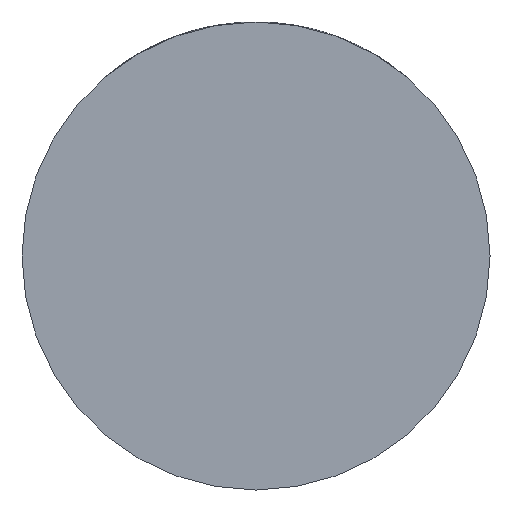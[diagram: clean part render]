
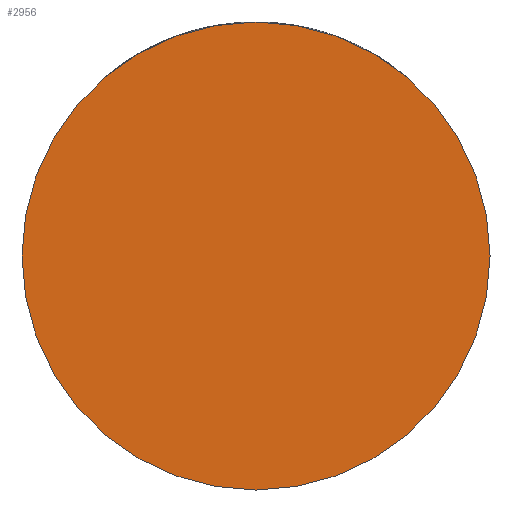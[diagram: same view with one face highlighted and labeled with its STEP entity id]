
A CAD part, front view. The second image highlights one B-rep face of the part: STEP entity #2956.
In plain terms, the highlighted planar face has unit normal (0, -1, 0).
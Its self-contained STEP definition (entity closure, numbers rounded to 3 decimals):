
#218 = CIRCLE ( 'NONE', #1531, 39. ) ;
#525 = DIRECTION ( 'NONE',  ( 1., 0., 0. ) ) ;
#603 = DIRECTION ( 'NONE',  ( 1., 0., 0. ) ) ;
#635 = CARTESIAN_POINT ( 'NONE',  ( -39., -36., 0. ) ) ;
#712 = AXIS2_PLACEMENT_3D ( 'NONE', #3617, #1499, #2528 ) ;
#943 = DIRECTION ( 'NONE',  ( 0., -1., 0. ) ) ;
#955 = VERTEX_POINT ( 'NONE', #635 ) ;
#1223 = CARTESIAN_POINT ( 'NONE',  ( 0., -36., 0. ) ) ;
#1431 = CARTESIAN_POINT ( 'NONE',  ( 39., -36., 0. ) ) ;
#1499 = DIRECTION ( 'NONE',  ( 0., -1., 0. ) ) ;
#1531 = AXIS2_PLACEMENT_3D ( 'NONE', #2727, #943, #603 ) ;
#2108 = EDGE_CURVE ( 'NONE', #955, #3838, #218, .T. ) ;
#2159 = PLANE ( 'NONE',  #712 ) ;
#2481 = FACE_OUTER_BOUND ( 'NONE', #4297, .T. ) ;
#2528 = DIRECTION ( 'NONE',  ( 1., 0., 0. ) ) ;
#2727 = CARTESIAN_POINT ( 'NONE',  ( 0., -36., 0. ) ) ;
#2824 = ORIENTED_EDGE ( 'NONE', *, *, #3432, .T. ) ;
#2956 = ADVANCED_FACE ( 'NONE', ( #2481 ), #2159, .T. ) ;
#3432 = EDGE_CURVE ( 'NONE', #3838, #955, #4412, .T. ) ;
#3587 = ORIENTED_EDGE ( 'NONE', *, *, #2108, .T. ) ;
#3617 = CARTESIAN_POINT ( 'NONE',  ( 0., -36., 0. ) ) ;
#3838 = VERTEX_POINT ( 'NONE', #1431 ) ;
#3840 = AXIS2_PLACEMENT_3D ( 'NONE', #1223, #4311, #525 ) ;
#4297 = EDGE_LOOP ( 'NONE', ( #3587, #2824 ) ) ;
#4311 = DIRECTION ( 'NONE',  ( 0., -1., 0. ) ) ;
#4412 = CIRCLE ( 'NONE', #3840, 39. ) ;
